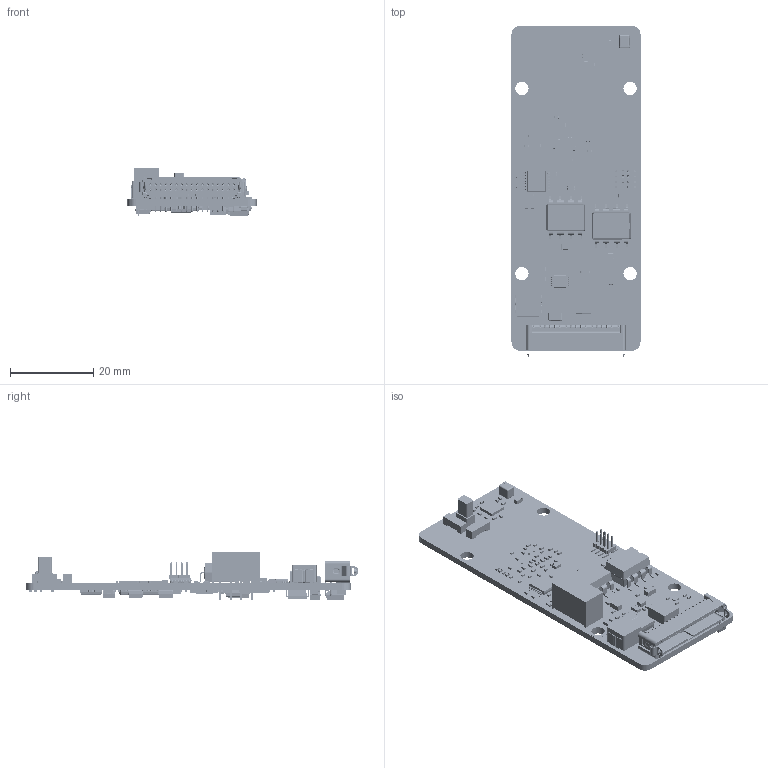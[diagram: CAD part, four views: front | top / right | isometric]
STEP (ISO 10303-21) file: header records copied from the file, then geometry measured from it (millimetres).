
FILE_DESCRIPTION(/* description */ ('','CAx-IF Rec.Pracs.---Representation and Presentation of Product Manufacturing Information (PMI)---4.0---2014-10-13'),/* implementation_level */ '2;1');
FILE_NAME(/* name */ 'C:\Releases\MEX\BASIC-101212\BASIC-101212_website\hw_MEX - BASIC - 101212.stp',/* time_stamp */ '2023-05-30T11:50:01+02:00',/* author */ ('jbs3'),/* organization */ (''),/* preprocessor_version */ 'ST-DEVELOPER v17',/* originating_system */ 'Autodesk Inventor 2018',/* authorisation */ '');
FILE_SCHEMA (('AP242_MANAGED_MODEL_BASED_3D_ENGINEERING_MIM_LF { 1 0 10303 442 1 1 4 }'));
Products named in the file (1): hw_MEX - BASIC
Bounding box: 31 x 79.77 x 11.56 mm (x, y, z)
Volume: 6268.3 mm3; surface area: 10469.9 mm2
Topology: 262 solids, 262 shells, 13375 faces, 33069 edges, 19143 vertices
Faces by surface type: plane 6839, cylinder 4565, sphere 1515, bspline 269, torus 133, cone 54
Full cylindrical faces by diameter (mm): 0.1 x1, 0.156 x1, 0.23 x3, 0.398 x1, 0.4 x52, 0.487 x1, 0.55 x2, 0.662 x1, 1 x1, 3.2 x4, 4.8 x2
Entity records: 400035 total; most frequent: CARTESIAN_POINT 73858, DIRECTION 67489, ORIENTED_EDGE 63126, EDGE_CURVE 31563, AXIS2_PLACEMENT_3D 23132, LINE 21233, VECTOR 21233, VERTEX_POINT 19143
